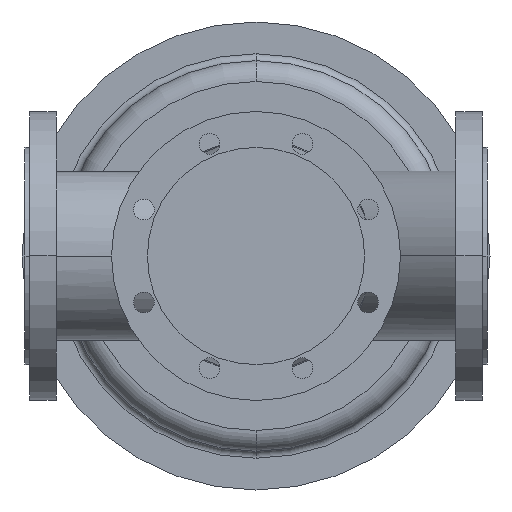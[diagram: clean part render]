
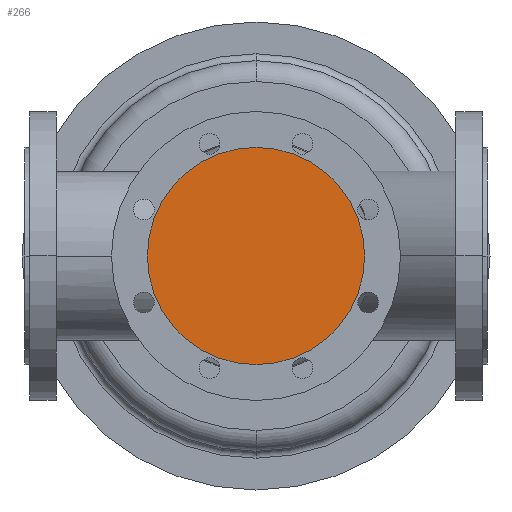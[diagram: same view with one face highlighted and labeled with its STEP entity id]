
A CAD part, front view. The second image highlights one B-rep face of the part: STEP entity #266.
In plain terms, the highlighted planar face has unit normal (0, -1, 0).
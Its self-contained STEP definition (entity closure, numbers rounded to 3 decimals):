
#266 = ADVANCED_FACE( '', ( #684 ), #685, .T. );
#684 = FACE_OUTER_BOUND( '', #1195, .T. );
#685 = PLANE( '', #1196 );
#1195 = EDGE_LOOP( '', ( #2506, #2507 ) );
#1196 = AXIS2_PLACEMENT_3D( '', #2508, #2509, #2510 );
#2506 = ORIENTED_EDGE( '', *, *, #3142, .F. );
#2507 = ORIENTED_EDGE( '', *, *, #3484, .F. );
#2508 = CARTESIAN_POINT( '', ( 247., -200., 0. ) );
#2509 = DIRECTION( '', ( 0., -1., 0. ) );
#2510 = DIRECTION( '', ( -1., 0., 0. ) );
#3142 = EDGE_CURVE( '', #3722, #3725, #3726, .T. );
#3484 = EDGE_CURVE( '', #3725, #3722, #4289, .T. );
#3722 = VERTEX_POINT( '', #4839 );
#3725 = VERTEX_POINT( '', #4843 );
#3726 = CIRCLE( '', #4844, 94. );
#4289 = CIRCLE( '', #6154, 94. );
#4839 = CARTESIAN_POINT( '', ( 294., -200., 0. ) );
#4843 = CARTESIAN_POINT( '', ( 106., -200., 0. ) );
#4844 = AXIS2_PLACEMENT_3D( '', #6578, #6579, #6580 );
#6154 = AXIS2_PLACEMENT_3D( '', #7270, #7271, #7272 );
#6578 = CARTESIAN_POINT( '', ( 200., -200., 0. ) );
#6579 = DIRECTION( '', ( 0., 1., 0. ) );
#6580 = DIRECTION( '', ( 1., 0., 0. ) );
#7270 = CARTESIAN_POINT( '', ( 200., -200., 0. ) );
#7271 = DIRECTION( '', ( 0., 1., 0. ) );
#7272 = DIRECTION( '', ( 1., 0., 0. ) );
